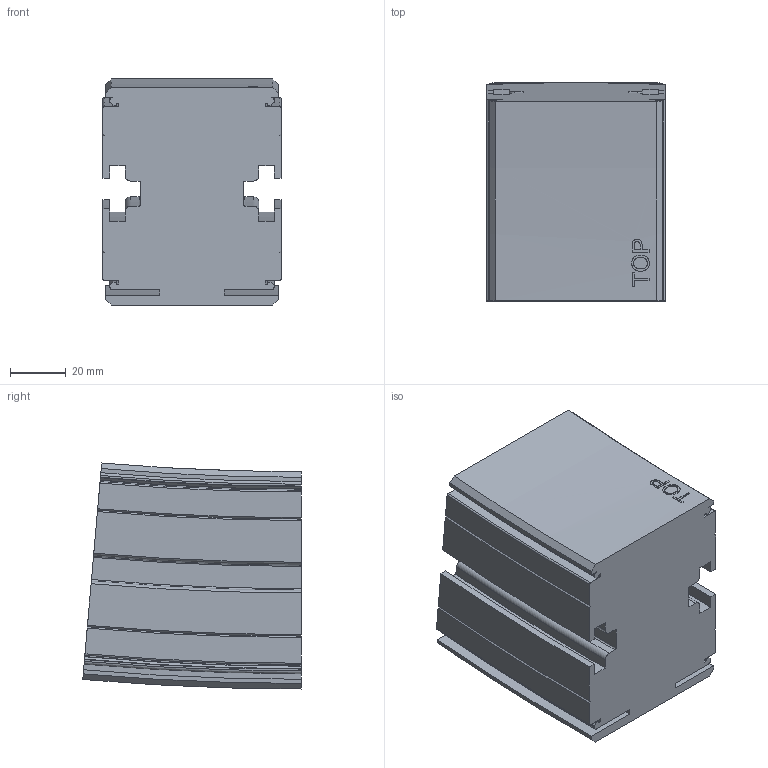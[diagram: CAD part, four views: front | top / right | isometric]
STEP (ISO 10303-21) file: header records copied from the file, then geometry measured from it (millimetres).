
FILE_DESCRIPTION(/* description */ ('VERTIKALKURVA S620 R860'),/* implementation_level */ '2;1');
FILE_NAME(/* name */ '\\carryline.intra\privat\users\mathias\Desktop\Tillfälliga filer\620-5695+620-2000-UPP-01.stp',/* time_stamp */ '2018-12-06T07:18:07+01:00',/* author */ ('MD'),/* organization */ ('CARRYLINE'),/* preprocessor_version */ 'ST-DEVELOPER v17',/* originating_system */ 'Autodesk Inventor 2018',/* authorisation */ '');
FILE_SCHEMA (('AUTOMOTIVE_DESIGN { 1 0 10303 214 3 1 1 }'));
Length unit declared in the file: millimetre
Products named in the file (1): 620-5695+620-2000-UPP-01
Bounding box: 64 x 78.44 x 81.13 mm (x, y, z)
Volume: 335220.1 mm3; surface area: 45251.8 mm2
Topology: 1 solids, 1 shells, 149 faces, 426 edges, 284 vertices
Faces by surface type: plane 54, cylinder 37, torus 28, cone 16, bspline 14
Entity records: 9548 total; most frequent: CARTESIAN_POINT 5528, ORIENTED_EDGE 852, DIRECTION 836, EDGE_CURVE 426, AXIS2_PLACEMENT_3D 315, VERTEX_POINT 284, LINE 206, VECTOR 206
